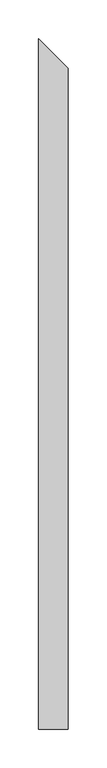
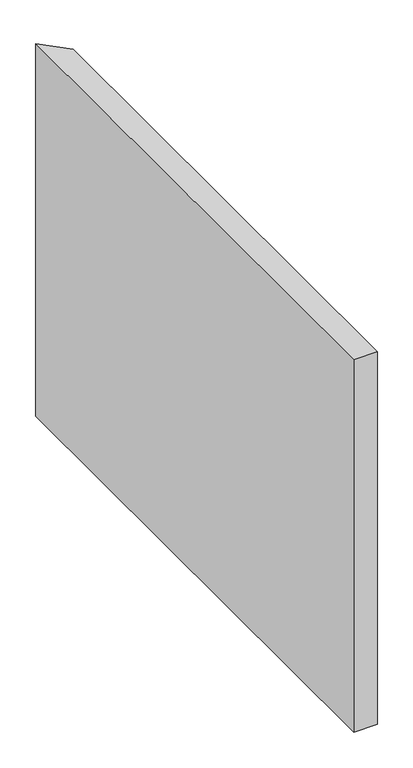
"""IFC4 building model written with IfcOpenShell, lengths in millimetres: proxy geometry, FOUNDATION^STANDARD CREDENZA_WEBSITE DETAIL-LEFT END."""

from ifc_helpers import new_model, si_unit, origin, origin_with_axes, place, context, project, spatial, polyline, outline, extrude, source, transform, mapped, element, save


def generic_models_5e3a76fd(model_context):
    return source(origin(), model_context, "Body", "SweptSolid", [
        extrude(outline(polyline([(38.1, 0.0), (0.0, 0.0), (0.0, 889.0), (38.1, 850.9), (38.1, 0.0)])), origin_with_axes(), (0.0, 0.0, 1.0), 635.0),
    ])


if __name__ == "__main__":
    model = new_model("IFC4")
    model_context = context("Model", 3, world=origin())
    ifc_project = project(units=[si_unit("LENGTHUNIT", "METRE", prefix="MILLI")], contexts=[model_context])
    site = spatial("IfcSite", under=ifc_project)
    building = spatial("IfcBuilding", under=site)
    placement = place(None, origin())
    generic_models_shape = generic_models_5e3a76fd(model_context)
    element("IfcBuildingElementProxy", 1, Name="FOUNDATION^STANDARD CREDENZA_WEBSITE DETAIL-LEFT END", ObjectType="FOUNDATION^STANDARD CREDENZA_WEBSITE DETAIL-LEFT END", at=placement, inside=building, context=model_context, shape_type="MappedRepresentation", body=[
        mapped(generic_models_shape, transform((0.0, 0.0, 0.0), x_axis=(1.0, 0.0, 0.0), y_axis=(0.0, 1.0, 0.0), z_axis=(0.0, 0.0, 1.0))),
    ])
    save(model, "model.ifc")
